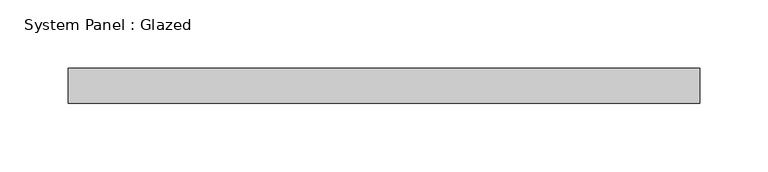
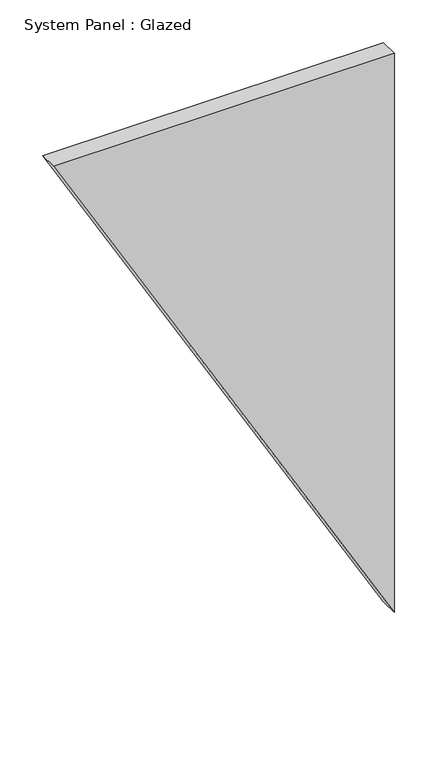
"""IFC4 building model written with IfcOpenShell, lengths in millimetres: plate geometry, System Panel : Glazed."""

from ifc_helpers import new_model, si_unit, frame, origin, place, context, project, spatial, polyline, outline, extrude, source, transform, mapped, element, save


def system_panel_glazed_97b34f28(model_context):
    return source(origin(), model_context, "Body", "SweptSolid", [
        extrude(outline(polyline([(799.192692, -230.7070579), (0.0, 230.7070579), (799.192692, 230.7070579), (799.192692, -230.7070579)])), frame((0.0, 19.05, 0.0), z_axis=(0.0, 1.0, 0.0), x_axis=(0.0, 0.0, 1.0)), (0.0, 0.0, 1.0), 25.4),
    ])


if __name__ == "__main__":
    model = new_model("IFC4")
    model_context = context("Model", 3, world=origin())
    ifc_project = project(units=[si_unit("LENGTHUNIT", "METRE", prefix="MILLI")], contexts=[model_context])
    site = spatial("IfcSite", under=ifc_project)
    building = spatial("IfcBuilding", under=site)
    placement = place(None, origin())
    system_panel_glazed_shape = system_panel_glazed_97b34f28(model_context)
    element("IfcPlate", 1, ObjectType="System Panel : Glazed", at=placement, inside=building, context=model_context, shape_type="MappedRepresentation", body=[
        mapped(system_panel_glazed_shape, transform((0.0, 0.0, 0.0), x_axis=(1.0, 0.0, 0.0), y_axis=(0.0, 1.0, 0.0), z_axis=(0.0, 0.0, 1.0))),
    ])
    save(model, "model.ifc")
